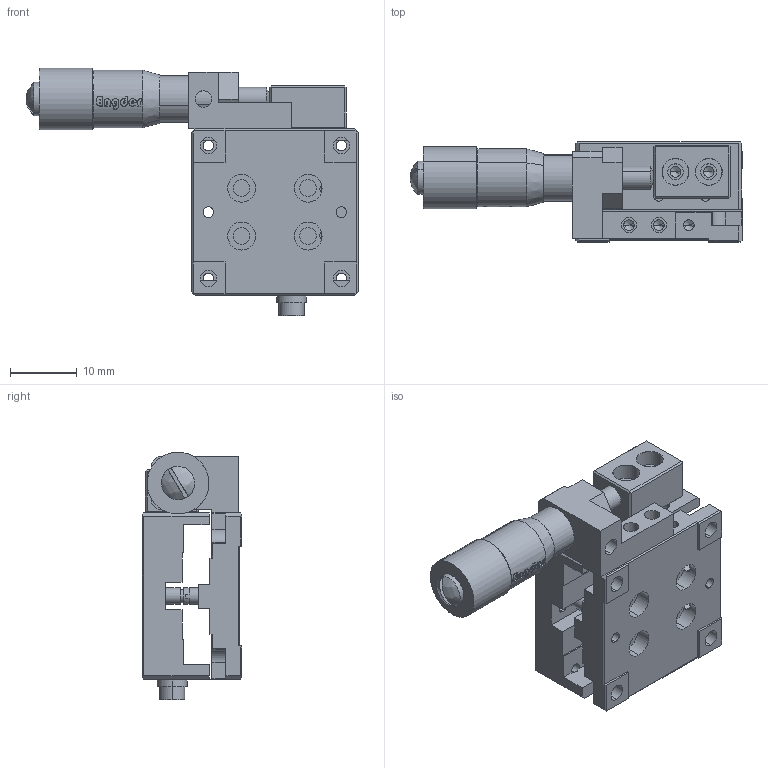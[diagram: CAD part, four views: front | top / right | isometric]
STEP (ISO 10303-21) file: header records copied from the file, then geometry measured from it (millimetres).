
FILE_DESCRIPTION (( 'STEP AP203' ), '1' );
FILE_NAME ('MX25-R.STEP', '2018-08-17T06:20:42', ( 'User' ), ( 'No' ), 'SwSTEP 2.0', 'SolidWorks 2012', '' );
FILE_SCHEMA (( 'CONFIG_CONTROL_DESIGN' ));
Length unit declared in the file: millimetre
Products named in the file (1): MX25-R
Bounding box: 49.93 x 15 x 37.25 mm (x, y, z)
Volume: 8401.1 mm3; surface area: 8992.4 mm2
Topology: 7 solids, 7 shells, 556 faces, 1420 edges, 890 vertices
Faces by surface type: plane 248, cylinder 198, bspline 55, cone 55
Entity records: 21853 total; most frequent: CARTESIAN_POINT 8411, ORIENTED_EDGE 2788, DIRECTION 2706, EDGE_CURVE 1394, AXIS2_PLACEMENT_3D 955, VERTEX_POINT 890, LINE 796, VECTOR 796
